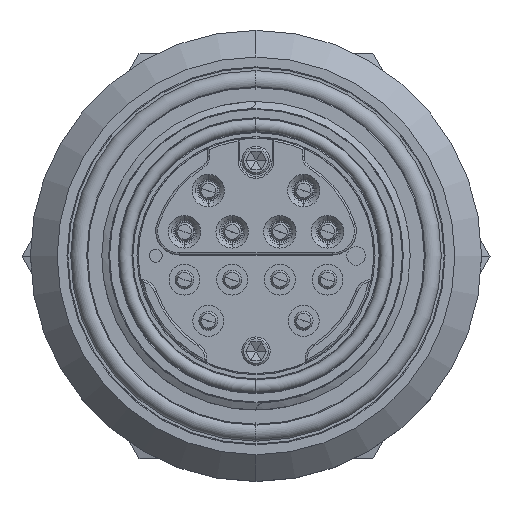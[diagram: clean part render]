
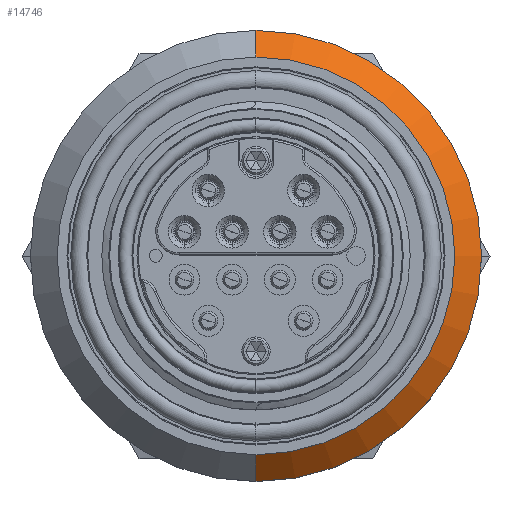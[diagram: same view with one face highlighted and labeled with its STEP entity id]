
A CAD part, top view. The second image highlights one B-rep face of the part: STEP entity #14746.
In plain terms, the highlighted conical face has half-angle 45 degrees and reference radius 30.035 mm.
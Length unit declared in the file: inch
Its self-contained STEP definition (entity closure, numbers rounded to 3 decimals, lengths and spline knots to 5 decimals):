
#51 = DIRECTION ( 'NONE',  ( 0., 1., 0. ) ) ;
#745 = DIRECTION ( 'NONE',  ( 0., 0., -1. ) ) ;
#963 = AXIS2_PLACEMENT_3D ( 'NONE', #10661, #5692, #23766 ) ;
#1306 = ORIENTED_EDGE ( 'NONE', *, *, #21103, .T. ) ;
#1627 = LINE ( 'NONE', #19830, #29790 ) ;
#1812 = CONICAL_SURFACE ( 'NONE', #5627, 1.1825, 0.785 ) ;
#3613 = EDGE_CURVE ( 'NONE', #12573, #28811, #4850, .T. ) ;
#3891 = AXIS2_PLACEMENT_3D ( 'NONE', #20508, #22907, #51 ) ;
#4850 = CIRCLE ( 'NONE', #3891, 1.1825 ) ;
#5627 = AXIS2_PLACEMENT_3D ( 'NONE', #21821, #745, #10360 ) ;
#5692 = DIRECTION ( 'NONE',  ( 0., 0., -1. ) ) ;
#6307 = VERTEX_POINT ( 'NONE', #10348 ) ;
#10348 = CARTESIAN_POINT ( 'NONE',  ( 0., -1.0425, -0.55822 ) ) ;
#10360 = DIRECTION ( 'NONE',  ( 0., 1., 0. ) ) ;
#10661 = CARTESIAN_POINT ( 'NONE',  ( 0., 0., -0.55822 ) ) ;
#12573 = VERTEX_POINT ( 'NONE', #27855 ) ;
#14746 = ADVANCED_FACE ( 'NONE', ( #24237 ), #1812, .T. ) ;
#14749 = DIRECTION ( 'NONE',  ( 0., -0.707, -0.707 ) ) ;
#17769 = VECTOR ( 'NONE', #14749, 39.37008 ) ;
#19830 = CARTESIAN_POINT ( 'NONE',  ( 0., 1.1825, -0.69822 ) ) ;
#20508 = CARTESIAN_POINT ( 'NONE',  ( 0., 0., -0.69822 ) ) ;
#20903 = CARTESIAN_POINT ( 'NONE',  ( 0., 1.0425, -0.55822 ) ) ;
#21103 = EDGE_CURVE ( 'NONE', #6307, #28811, #24568, .T. ) ;
#21544 = CARTESIAN_POINT ( 'NONE',  ( 0., -1.1825, -0.69822 ) ) ;
#21705 = EDGE_CURVE ( 'NONE', #27106, #6307, #27901, .T. ) ;
#21727 = ORIENTED_EDGE ( 'NONE', *, *, #29160, .F. ) ;
#21821 = CARTESIAN_POINT ( 'NONE',  ( 0., 0., -0.69822 ) ) ;
#22423 = ORIENTED_EDGE ( 'NONE', *, *, #3613, .F. ) ;
#22907 = DIRECTION ( 'NONE',  ( 0., 0., -1. ) ) ;
#23766 = DIRECTION ( 'NONE',  ( 0., 1., 0. ) ) ;
#24237 = FACE_OUTER_BOUND ( 'NONE', #28035, .T. ) ;
#24568 = LINE ( 'NONE', #21544, #17769 ) ;
#26917 = DIRECTION ( 'NONE',  ( 0., 0.707, -0.707 ) ) ;
#27106 = VERTEX_POINT ( 'NONE', #20903 ) ;
#27413 = CARTESIAN_POINT ( 'NONE',  ( 0., -1.1825, -0.69822 ) ) ;
#27855 = CARTESIAN_POINT ( 'NONE',  ( 0., 1.1825, -0.69822 ) ) ;
#27901 = CIRCLE ( 'NONE', #963, 1.0425 ) ;
#28035 = EDGE_LOOP ( 'NONE', ( #28187, #1306, #22423, #21727 ) ) ;
#28187 = ORIENTED_EDGE ( 'NONE', *, *, #21705, .T. ) ;
#28811 = VERTEX_POINT ( 'NONE', #27413 ) ;
#29160 = EDGE_CURVE ( 'NONE', #27106, #12573, #1627, .T. ) ;
#29790 = VECTOR ( 'NONE', #26917, 39.37008 ) ;
